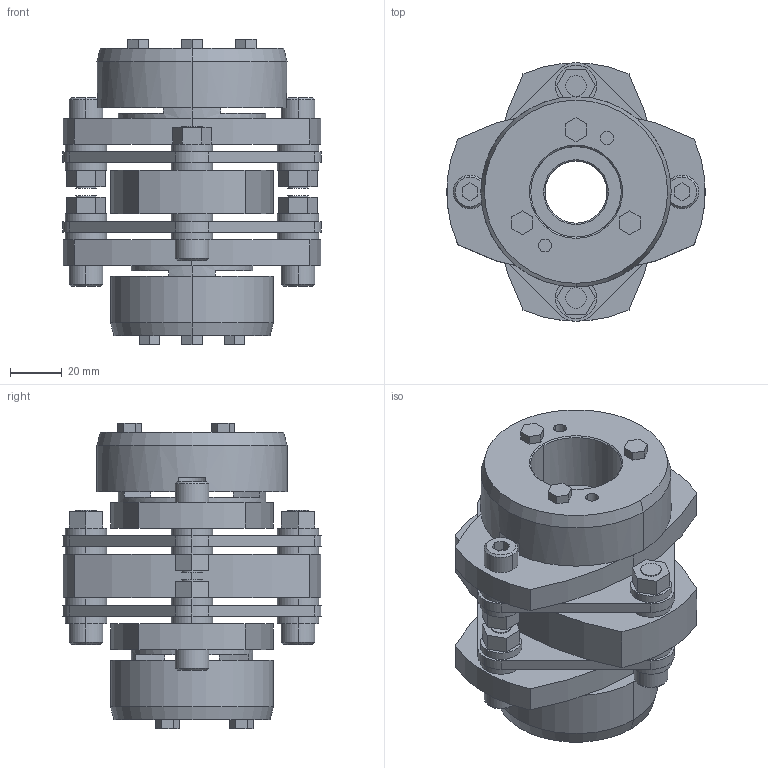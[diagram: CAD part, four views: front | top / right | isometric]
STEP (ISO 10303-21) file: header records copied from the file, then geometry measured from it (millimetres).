
FILE_DESCRIPTION((''),'2;1');
FILE_NAME('LCD-100T7-24×35.stp','2015-11-02T07:23:19',(''),(''),'AutoCAD STEP 2000i','AutoCAD 2000i',', , ');
FILE_SCHEMA(('CONFIG_CONTROL_DESIGN'));
Length unit declared in the file: millimetre
Products named in the file (9): LCD-100T7-25×35; 忣兜1; LC100T7-T035; LC100T7-T030; LC100T7-T025-1; LC100T7-T025; LC100T7-T022-1; LC100T7-T022; LCD100-ITA
Assembly tree (8 placements, depth 2):
  LCD-100T7-25×35
    忣兜1
    LC100T7-T035
    LC100T7-T030
    LC100T7-T025-1
    LC100T7-T025
    LC100T7-T022-1
    LC100T7-T022
    LCD100-ITA
Bounding box: 100 x 99.93 x 118 mm (x, y, z)
Volume: 360016.7 mm3; surface area: 91223.1 mm2
Topology: 1 solids, 1 shells, 324 faces, 792 edges, 520 vertices
Faces by surface type: plane 178, cylinder 122, cone 24
Entity records: 9831 total; most frequent: DIRECTION 1746, CARTESIAN_POINT 1645, ORIENTED_EDGE 1584, EDGE_CURVE 792, AXIS2_PLACEMENT_3D 621, VERTEX_POINT 520, VECTOR 504, LINE 504
